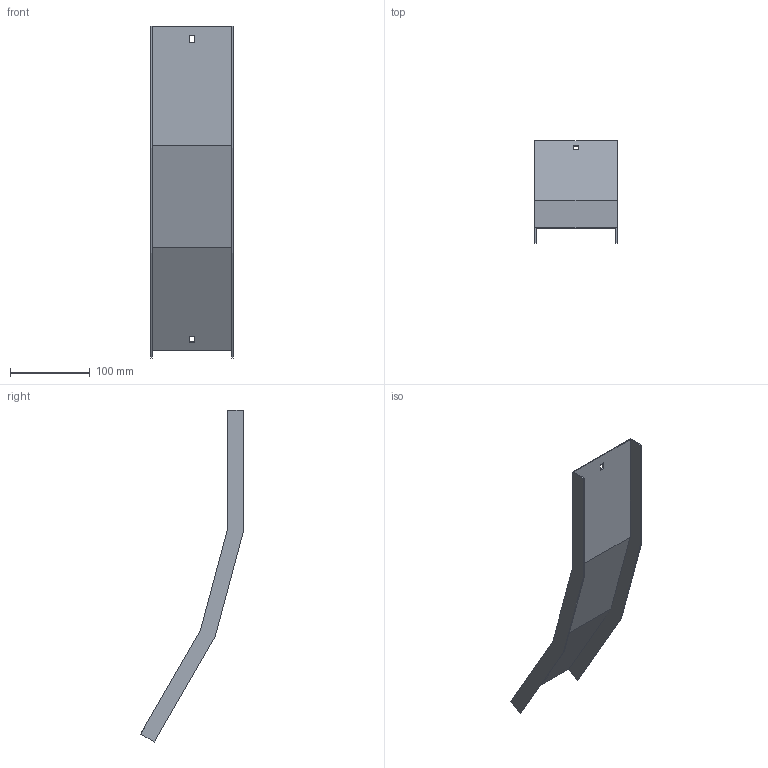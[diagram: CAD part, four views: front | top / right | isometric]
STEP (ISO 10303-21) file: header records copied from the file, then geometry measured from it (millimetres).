
FILE_DESCRIPTION (( 'STEP AP214' ), '1' );
FILE_NAME ('B2X32N5R100X.step', '2025-03-20T09:40:23', ( '' ), ( '' ), 'SwSTEP 2.0', 'SolidWorks 2023', '' );
FILE_SCHEMA (( 'AUTOMOTIVE_DESIGN' ));
Length unit declared in the file: millimetre
Products named in the file (1): B2X32N5R100X
Bounding box: 103 x 128.96 x 416.64 mm (x, y, z)
Volume: 90751.7 mm3; surface area: 122839.3 mm2
Topology: 1 solids, 1 shells, 26 faces, 72 edges, 48 vertices
Faces by surface type: plane 26
Entity records: 847 total; most frequent: CARTESIAN_POINT 147, ORIENTED_EDGE 144, DIRECTION 126, LINE 72, EDGE_CURVE 72, VECTOR 72, VERTEX_POINT 48, EDGE_LOOP 30
